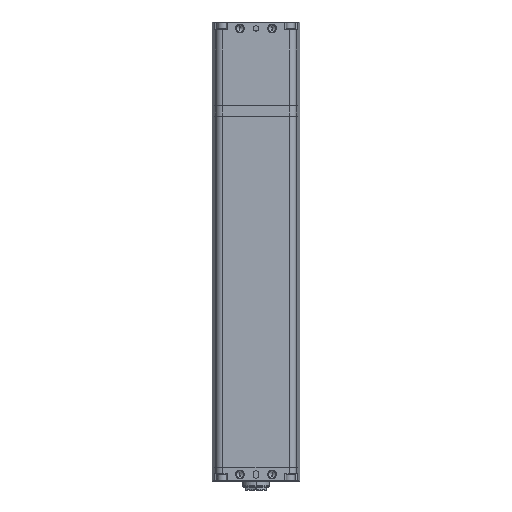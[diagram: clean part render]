
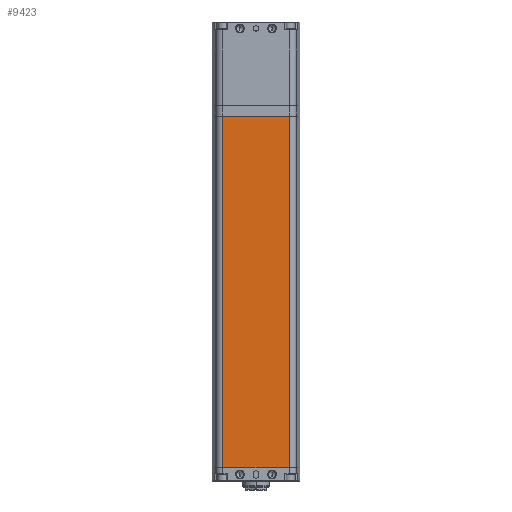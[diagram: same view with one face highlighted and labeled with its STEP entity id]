
A CAD part, front view. The second image highlights one B-rep face of the part: STEP entity #9423.
In plain terms, the highlighted planar face has unit normal (0, -1, 0).
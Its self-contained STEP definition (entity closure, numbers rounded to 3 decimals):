
#1651 = CARTESIAN_POINT ( 'NONE',  ( -41., -41., -1073. ) ) ;
#2061 = CARTESIAN_POINT ( 'NONE',  ( 31.138, -41., -1073. ) ) ;
#2552 = LINE ( 'NONE', #19384, #9105 ) ;
#3556 = DIRECTION ( 'NONE',  ( 1., 0., 0. ) ) ;
#4166 = CARTESIAN_POINT ( 'NONE',  ( -31.138, -41., -401. ) ) ;
#4517 = EDGE_CURVE ( 'NONE', #17526, #21327, #2552, .T. ) ;
#6312 = VECTOR ( 'NONE', #3556, 1000. ) ;
#7169 = CARTESIAN_POINT ( 'NONE',  ( -41., -41., -401. ) ) ;
#7560 = DIRECTION ( 'NONE',  ( 0., 0., 1. ) ) ;
#8153 = DIRECTION ( 'NONE',  ( 0., 0., -1. ) ) ;
#8647 = EDGE_CURVE ( 'NONE', #17526, #18630, #14534, .T. ) ;
#9042 = VERTEX_POINT ( 'NONE', #19894 ) ;
#9105 = VECTOR ( 'NONE', #8153, 1000. ) ;
#9423 = ADVANCED_FACE ( 'NONE', ( #14445 ), #22259, .T. ) ;
#11653 = ORIENTED_EDGE ( 'NONE', *, *, #14065, .T. ) ;
#12264 = ORIENTED_EDGE ( 'NONE', *, *, #8647, .F. ) ;
#12630 = DIRECTION ( 'NONE',  ( 0., -1., 0. ) ) ;
#12829 = CARTESIAN_POINT ( 'NONE',  ( -41., -41., -73. ) ) ;
#14065 = EDGE_CURVE ( 'NONE', #21327, #9042, #21111, .T. ) ;
#14401 = VECTOR ( 'NONE', #21932, 1000. ) ;
#14445 = FACE_OUTER_BOUND ( 'NONE', #17714, .T. ) ;
#14534 = LINE ( 'NONE', #12829, #6312 ) ;
#14650 = CARTESIAN_POINT ( 'NONE',  ( 31.138, -41., -73. ) ) ;
#15115 = CARTESIAN_POINT ( 'NONE',  ( -31.138, -41., -73. ) ) ;
#15279 = AXIS2_PLACEMENT_3D ( 'NONE', #1651, #12630, #16401 ) ;
#16401 = DIRECTION ( 'NONE',  ( 0., 0., -1. ) ) ;
#17526 = VERTEX_POINT ( 'NONE', #15115 ) ;
#17714 = EDGE_LOOP ( 'NONE', ( #18381, #11653, #21686, #12264 ) ) ;
#18381 = ORIENTED_EDGE ( 'NONE', *, *, #4517, .T. ) ;
#18630 = VERTEX_POINT ( 'NONE', #14650 ) ;
#18710 = EDGE_CURVE ( 'NONE', #9042, #18630, #19033, .T. ) ;
#18876 = VECTOR ( 'NONE', #7560, 1000. ) ;
#19033 = LINE ( 'NONE', #2061, #18876 ) ;
#19384 = CARTESIAN_POINT ( 'NONE',  ( -31.138, -41., -1073. ) ) ;
#19894 = CARTESIAN_POINT ( 'NONE',  ( 31.138, -41., -401. ) ) ;
#21111 = LINE ( 'NONE', #7169, #14401 ) ;
#21327 = VERTEX_POINT ( 'NONE', #4166 ) ;
#21686 = ORIENTED_EDGE ( 'NONE', *, *, #18710, .T. ) ;
#21932 = DIRECTION ( 'NONE',  ( 1., 0., 0. ) ) ;
#22259 = PLANE ( 'NONE',  #15279 ) ;
